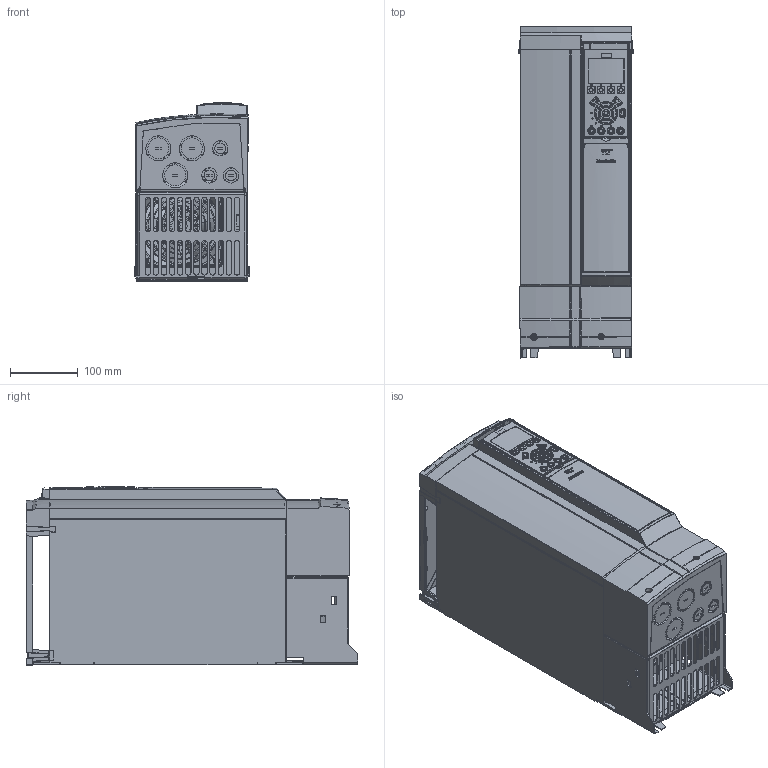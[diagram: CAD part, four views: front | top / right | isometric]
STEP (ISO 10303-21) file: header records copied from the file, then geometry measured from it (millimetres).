
FILE_DESCRIPTION((''),'2;1');
FILE_NAME('DANFOSS-FC300-B3NEMA1-KIT-B-187','2008-07-24T',('Abhilash.Paramesh'),('dan Drives A/S'),'PRO/ENGINEER BY PARAMETRIC TECHNOLOGY CORPORATION, 2007160','PRO/ENGINEER BY PARAMETRIC TECHNOLOGY CORPORATION, 2007160','');
FILE_SCHEMA(('CONFIG_CONTROL_DESIGN'));
Products named in the file (1): DANFOSS-FC300-B3NEMA1-KIT-B-187
Bounding box: 169.82 x 490.92 x 264.1 mm (x, y, z)
Volume: 14414107 mm3; surface area: 925385.6 mm2
Topology: 3 solids, 22 shells, 7013 faces, 17874 edges, 10912 vertices
Faces by surface type: plane 2710, cylinder 2214, bspline 830, torus 589, sphere 342, extrusion 174, cone 154
Entity records: 331402 total; most frequent: CARTESIAN_POINT 100035, ORIENTED_EDGE 35508, DIRECTION 30863, PRESENTATION_STYLE_ASSIGNMENT 20092, STYLED_ITEM 17757, CURVE_STYLE 17754, EDGE_CURVE 17754, VERTEX_POINT 10911
